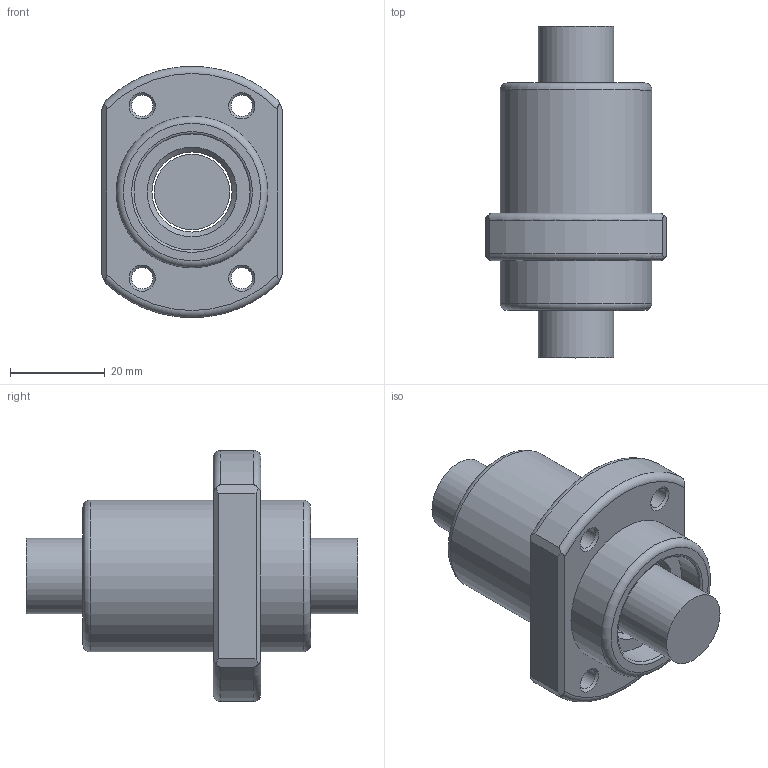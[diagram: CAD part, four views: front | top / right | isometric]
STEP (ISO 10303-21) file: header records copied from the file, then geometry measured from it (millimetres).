
FILE_DESCRIPTION(/* description */ (''),/* implementation_level */ '2;1');
FILE_NAME(/* name */ '1616.prt.step',/* time_stamp */ '2008-12-05T09:31:40+08:00',/* author */ (''),/* organization */ (''),/* preprocessor_version */ 'ST-DEVELOPER v11',/* originating_system */ 'SIEMENS UGS NX 6.0',/* authorisation */ '');
FILE_SCHEMA (('AUTOMOTIVE_DESIGN { 1 0 10303 214 1 1 1 1 }'));
Length unit declared in the file: millimetre
Products named in the file (1): 1616
Bounding box: 38 x 70 x 52.97 mm (x, y, z)
Volume: 48185.6 mm3; surface area: 15319.6 mm2
Topology: 2 solids, 2 shells, 48 faces, 109 edges, 69 vertices
Faces by surface type: plane 18, cylinder 12, cone 10, torus 8
Full cylindrical faces by diameter (mm): 4.5 x4, 15.95 x1, 16.9 x1, 24.5 x2, 32 x2
Entity records: 1446 total; most frequent: CARTESIAN_POINT 425, DIRECTION 206, ORIENTED_EDGE 164, AXIS2_PLACEMENT_3D 91, EDGE_LOOP 86, EDGE_CURVE 82, FACE_BOUND 68, VERTEX_POINT 66
